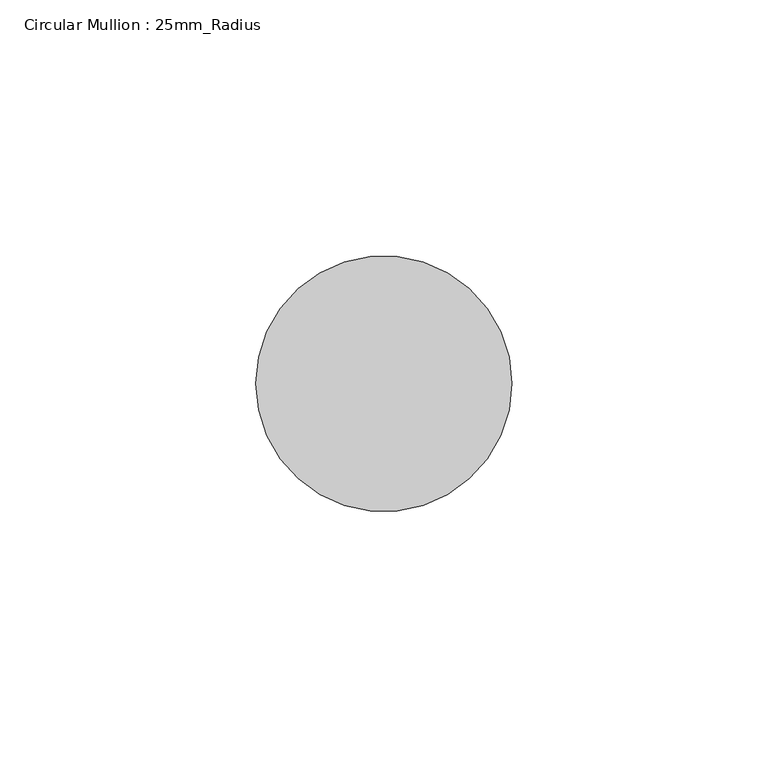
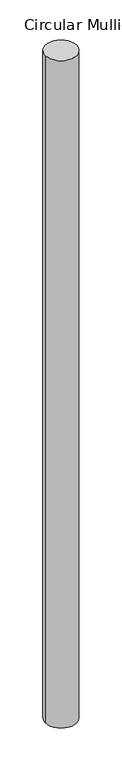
"""IFC4 building model written with IfcOpenShell, lengths in millimetres: member geometry, Circular Mullion : 25mm_Radius."""

from ifc_helpers import new_model, si_unit, point, frame, frame_2d, origin, place, context, project, spatial, circle_curve, trimmed, segment, composite_curve, outline, extrude, source, transform, mapped, element, save


def circular_mullion_25mm_radius_010da883(model_context):
    return source(origin(), model_context, "Body", "SweptSolid", [
        extrude(outline(composite_curve([segment(trimmed(circle_curve(frame_2d((-25.0, 0.0)), 25.0), [point((0.0, 0.0))], [point((-50.0, 0.0))], False, "CARTESIAN"), True, "CONTINUOUS"), segment(trimmed(circle_curve(frame_2d((-25.0, 0.0)), 25.0), [point((-50.0, 0.0))], [point((0.0, 0.0))], False, "CARTESIAN"), True, "CONTINUOUS")], self_intersect=False)), frame((0.0, 0.0, -1123.9983348), z_axis=(0.0, 0.0, 1.0), x_axis=(1.0, 0.0, 0.0)), (0.0, 0.0, 1.0), 1123.9983348),
    ])


if __name__ == "__main__":
    model = new_model("IFC4")
    model_context = context("Model", 3, world=origin())
    ifc_project = project(units=[si_unit("LENGTHUNIT", "METRE", prefix="MILLI")], contexts=[model_context])
    site = spatial("IfcSite", under=ifc_project)
    building = spatial("IfcBuilding", under=site)
    placement = place(None, origin())
    circular_mullion_25mm_radius_shape = circular_mullion_25mm_radius_010da883(model_context)
    element("IfcMember", 1, ObjectType="Circular Mullion : 25mm_Radius", at=placement, inside=building, context=model_context, shape_type="MappedRepresentation", body=[
        mapped(circular_mullion_25mm_radius_shape, transform((0.0, 0.0, 0.0), x_axis=(1.0, 0.0, 0.0), y_axis=(0.0, 1.0, 0.0), z_axis=(0.0, 0.0, 1.0))),
    ])
    save(model, "model.ifc")
